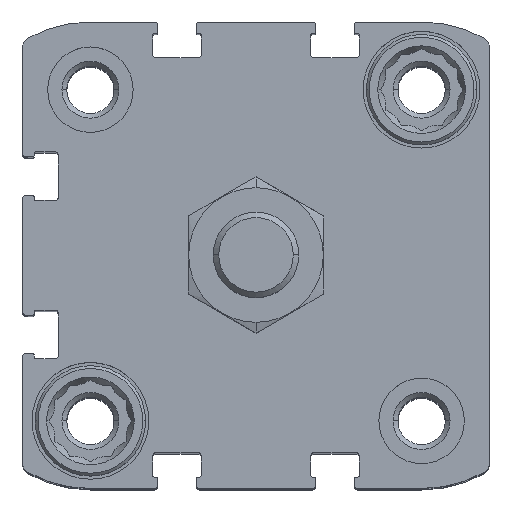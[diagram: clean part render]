
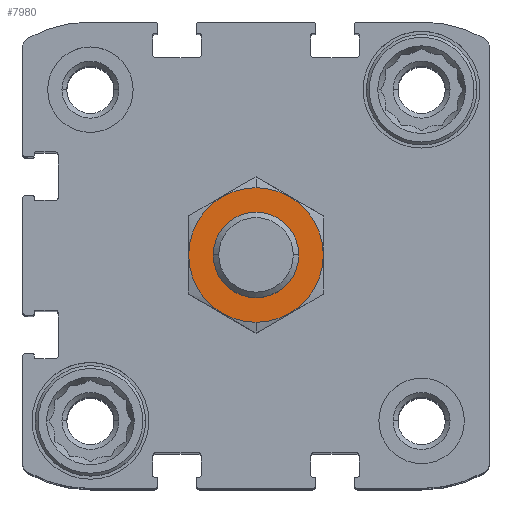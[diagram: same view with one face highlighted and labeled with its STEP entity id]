
A CAD part, top view. The second image highlights one B-rep face of the part: STEP entity #7980.
In plain terms, the highlighted planar face has unit normal (0, 0, 1).
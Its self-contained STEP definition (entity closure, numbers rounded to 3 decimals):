
#318 = DIRECTION ( 'NONE',  ( 0., 0., -1. ) ) ;
#440 = CIRCLE ( 'NONE', #6319, 6. ) ;
#1042 = FACE_BOUND ( 'NONE', #11825, .T. ) ;
#1122 = DIRECTION ( 'NONE',  ( 0., 1., 0. ) ) ;
#1273 = VERTEX_POINT ( 'NONE', #8469 ) ;
#1282 = DIRECTION ( 'NONE',  ( 0., 1., 0. ) ) ;
#1561 = EDGE_CURVE ( 'NONE', #2000, #15066, #10378, .T. ) ;
#1718 = DIRECTION ( 'NONE',  ( 0., 1., 0. ) ) ;
#2000 = VERTEX_POINT ( 'NONE', #12095 ) ;
#2305 = AXIS2_PLACEMENT_3D ( 'NONE', #4153, #318, #2840 ) ;
#2514 = DIRECTION ( 'NONE',  ( 0., 0., -1. ) ) ;
#2518 = EDGE_CURVE ( 'NONE', #11275, #1273, #4514, .T. ) ;
#2616 = ORIENTED_EDGE ( 'NONE', *, *, #13270, .F. ) ;
#2840 = DIRECTION ( 'NONE',  ( 0., 1., 0. ) ) ;
#2878 = AXIS2_PLACEMENT_3D ( 'NONE', #5070, #15597, #15941 ) ;
#3033 = DIRECTION ( 'NONE',  ( 0., 0., -1. ) ) ;
#3070 = CARTESIAN_POINT ( 'NONE',  ( 0., -9.45, 19.5 ) ) ;
#3741 = DIRECTION ( 'NONE',  ( 0., 0., -1. ) ) ;
#4153 = CARTESIAN_POINT ( 'NONE',  ( 0., 0., 19.5 ) ) ;
#4485 = ORIENTED_EDGE ( 'NONE', *, *, #1561, .T. ) ;
#4514 = CIRCLE ( 'NONE', #2305, 9.45 ) ;
#5070 = CARTESIAN_POINT ( 'NONE',  ( 0., 0., 19.5 ) ) ;
#6319 = AXIS2_PLACEMENT_3D ( 'NONE', #14438, #2514, #1282 ) ;
#6874 = AXIS2_PLACEMENT_3D ( 'NONE', #14958, #3033, #1718 ) ;
#7227 = EDGE_LOOP ( 'NONE', ( #2616, #16087 ) ) ;
#7556 = PLANE ( 'NONE',  #9367 ) ;
#7980 = ADVANCED_FACE ( 'NONE', ( #13045, #1042 ), #7556, .F. ) ;
#8469 = CARTESIAN_POINT ( 'NONE',  ( 0., 9.45, 19.5 ) ) ;
#9130 = CARTESIAN_POINT ( 'NONE',  ( 0., 6., 19.5 ) ) ;
#9367 = AXIS2_PLACEMENT_3D ( 'NONE', #11738, #3741, #1122 ) ;
#10378 = CIRCLE ( 'NONE', #2878, 6. ) ;
#11275 = VERTEX_POINT ( 'NONE', #3070 ) ;
#11667 = ORIENTED_EDGE ( 'NONE', *, *, #16264, .T. ) ;
#11738 = CARTESIAN_POINT ( 'NONE',  ( 0., 0., 19.5 ) ) ;
#11825 = EDGE_LOOP ( 'NONE', ( #4485, #11667 ) ) ;
#12095 = CARTESIAN_POINT ( 'NONE',  ( 0., -6., 19.5 ) ) ;
#13045 = FACE_OUTER_BOUND ( 'NONE', #7227, .T. ) ;
#13270 = EDGE_CURVE ( 'NONE', #1273, #11275, #13276, .T. ) ;
#13276 = CIRCLE ( 'NONE', #6874, 9.45 ) ;
#14438 = CARTESIAN_POINT ( 'NONE',  ( 0., 0., 19.5 ) ) ;
#14958 = CARTESIAN_POINT ( 'NONE',  ( 0., 0., 19.5 ) ) ;
#15066 = VERTEX_POINT ( 'NONE', #9130 ) ;
#15597 = DIRECTION ( 'NONE',  ( 0., 0., -1. ) ) ;
#15941 = DIRECTION ( 'NONE',  ( 0., 1., 0. ) ) ;
#16087 = ORIENTED_EDGE ( 'NONE', *, *, #2518, .F. ) ;
#16264 = EDGE_CURVE ( 'NONE', #15066, #2000, #440, .T. ) ;
